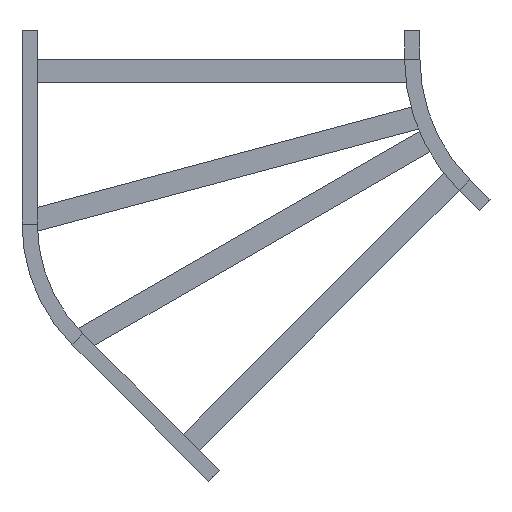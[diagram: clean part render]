
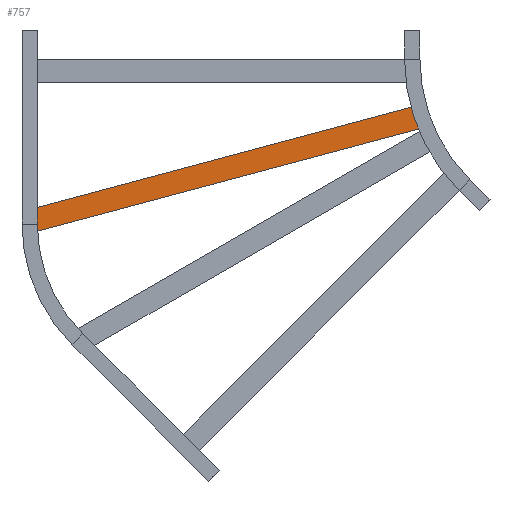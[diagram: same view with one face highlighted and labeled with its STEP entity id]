
A CAD part, front view. The second image highlights one B-rep face of the part: STEP entity #757.
In plain terms, the highlighted planar face has unit normal (0, -1, 0).
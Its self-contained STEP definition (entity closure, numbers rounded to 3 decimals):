
#37 = EDGE_CURVE ( 'NONE', #526, #1721, #465, .T. ) ;
#49 = CARTESIAN_POINT ( 'NONE',  ( 398., 0., 20.25 ) ) ;
#67 = CARTESIAN_POINT ( 'NONE',  ( 398., 0., -20.25 ) ) ;
#97 = DIRECTION ( 'NONE',  ( 0., 0., -1. ) ) ;
#103 = VERTEX_POINT ( 'NONE', #1662 ) ;
#155 = VECTOR ( 'NONE', #229, 1000. ) ;
#212 = EDGE_CURVE ( 'NONE', #526, #891, #1829, .T. ) ;
#229 = DIRECTION ( 'NONE',  ( -1., 0., 0. ) ) ;
#374 = ORIENTED_EDGE ( 'NONE', *, *, #37, .T. ) ;
#429 = ORIENTED_EDGE ( 'NONE', *, *, #1041, .T. ) ;
#465 = LINE ( 'NONE', #49, #1231 ) ;
#489 = ORIENTED_EDGE ( 'NONE', *, *, #1216, .F. ) ;
#526 = VERTEX_POINT ( 'NONE', #1808 ) ;
#555 = LINE ( 'NONE', #855, #805 ) ;
#757 = ADVANCED_FACE ( 'NONE', ( #1270 ), #1278, .F. ) ;
#785 = DIRECTION ( 'NONE',  ( -1., 0., 0. ) ) ;
#805 = VECTOR ( 'NONE', #836, 1000. ) ;
#813 = CARTESIAN_POINT ( 'NONE',  ( -333.206, 0., 20.25 ) ) ;
#836 = DIRECTION ( 'NONE',  ( -0.244, 0., -0.97 ) ) ;
#855 = CARTESIAN_POINT ( 'NONE',  ( -343.415, 0., -20.25 ) ) ;
#891 = VERTEX_POINT ( 'NONE', #67 ) ;
#936 = LINE ( 'NONE', #1072, #155 ) ;
#1041 = EDGE_CURVE ( 'NONE', #1721, #103, #555, .T. ) ;
#1072 = CARTESIAN_POINT ( 'NONE',  ( 398., 0., -20.25 ) ) ;
#1181 = EDGE_LOOP ( 'NONE', ( #374, #429, #489, #1734 ) ) ;
#1216 = EDGE_CURVE ( 'NONE', #891, #103, #936, .T. ) ;
#1231 = VECTOR ( 'NONE', #785, 1000. ) ;
#1270 = FACE_OUTER_BOUND ( 'NONE', #1181, .T. ) ;
#1278 = PLANE ( 'NONE',  #1296 ) ;
#1294 = DIRECTION ( 'NONE',  ( 0., 1., 0. ) ) ;
#1296 = AXIS2_PLACEMENT_3D ( 'NONE', #1562, #1294, #1438 ) ;
#1393 = CARTESIAN_POINT ( 'NONE',  ( 398., 0., 20.25 ) ) ;
#1438 = DIRECTION ( 'NONE',  ( 0., 0., 1. ) ) ;
#1562 = CARTESIAN_POINT ( 'NONE',  ( 398., 0., 20.25 ) ) ;
#1662 = CARTESIAN_POINT ( 'NONE',  ( -343.415, 0., -20.25 ) ) ;
#1708 = VECTOR ( 'NONE', #97, 1000. ) ;
#1721 = VERTEX_POINT ( 'NONE', #813 ) ;
#1734 = ORIENTED_EDGE ( 'NONE', *, *, #212, .F. ) ;
#1808 = CARTESIAN_POINT ( 'NONE',  ( 398., 0., 20.25 ) ) ;
#1829 = LINE ( 'NONE', #1393, #1708 ) ;
